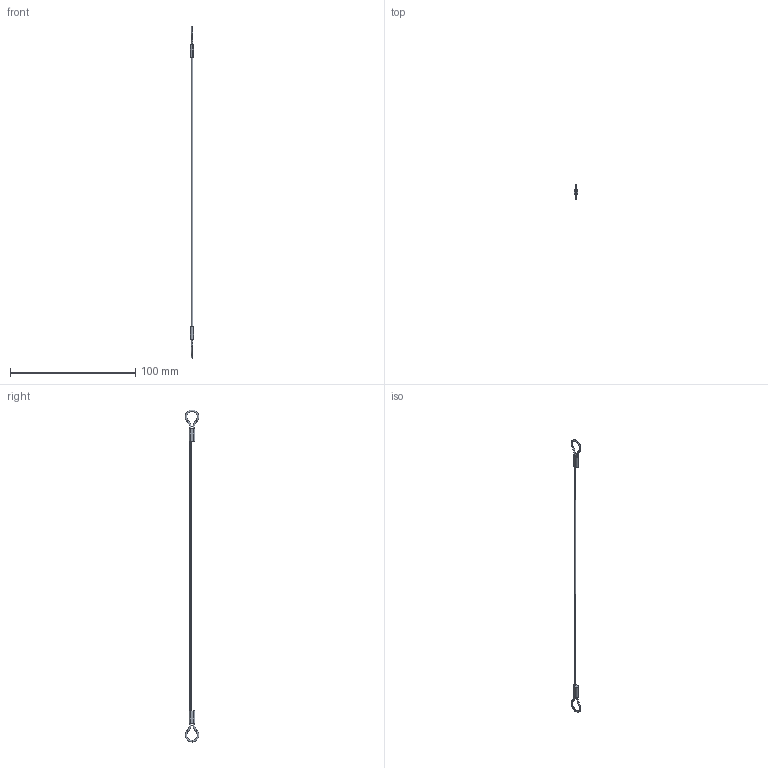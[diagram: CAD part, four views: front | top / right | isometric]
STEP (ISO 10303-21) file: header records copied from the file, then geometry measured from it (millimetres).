
FILE_DESCRIPTION (( 'STEP AP203' ), '1' );
FILE_NAME ('LA1065.I04-254N1.step', '2026-03-23T15:42:06', ( '' ), ( '' ), 'SwSTEP 2.0', 'SolidWorks 2019', '' );
FILE_SCHEMA (( 'CONFIG_CONTROL_DESIGN' ));
Length unit declared in the file: millimetre
Products named in the file (1): LA1065.I04-254N1
Bounding box: 2.4 x 10.78 x 264.77 mm (x, y, z)
Volume: 518.5 mm3; surface area: 1347.5 mm2
Topology: 1 solids, 1 shells, 30 faces, 68 edges, 42 vertices
Faces by surface type: torus 14, cylinder 8, plane 8
Entity records: 945 total; most frequent: DIRECTION 178, CARTESIAN_POINT 141, ORIENTED_EDGE 136, AXIS2_PLACEMENT_3D 79, EDGE_CURVE 68, CIRCLE 48, VERTEX_POINT 42, EDGE_LOOP 36
